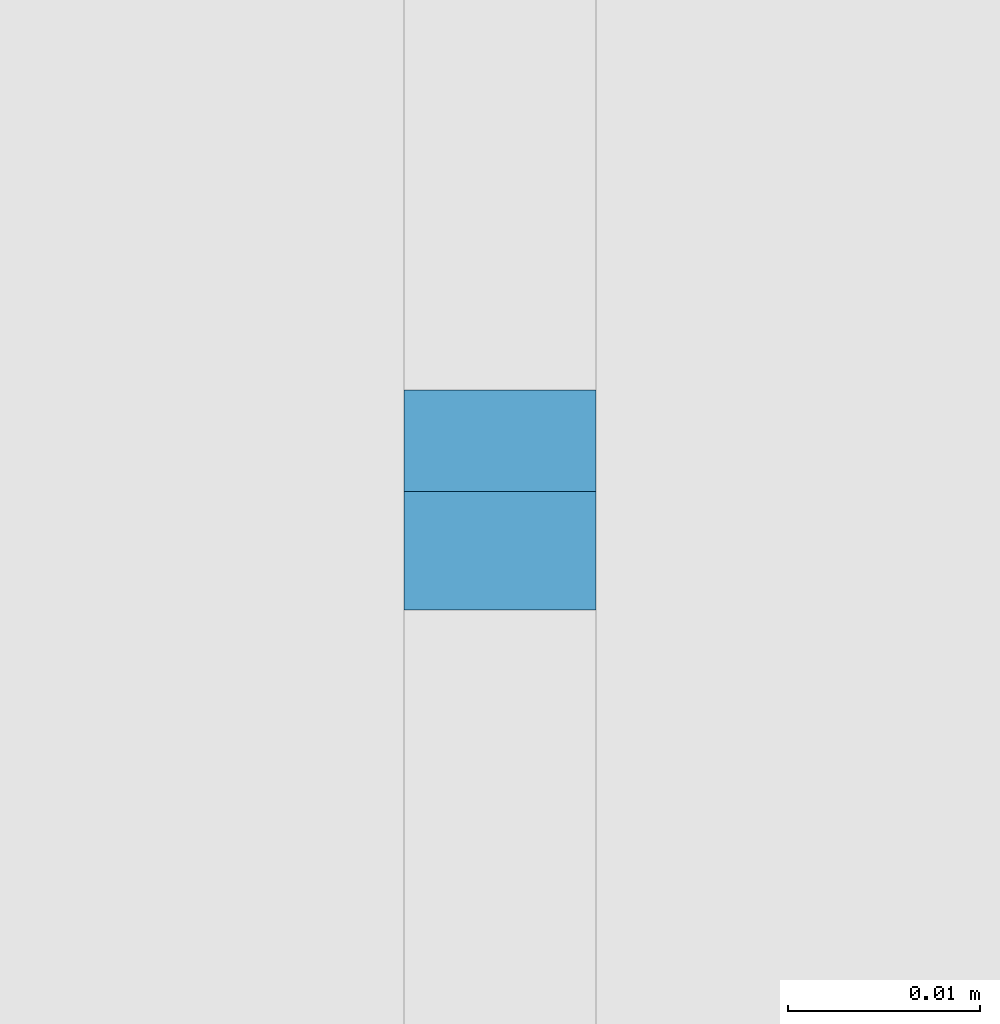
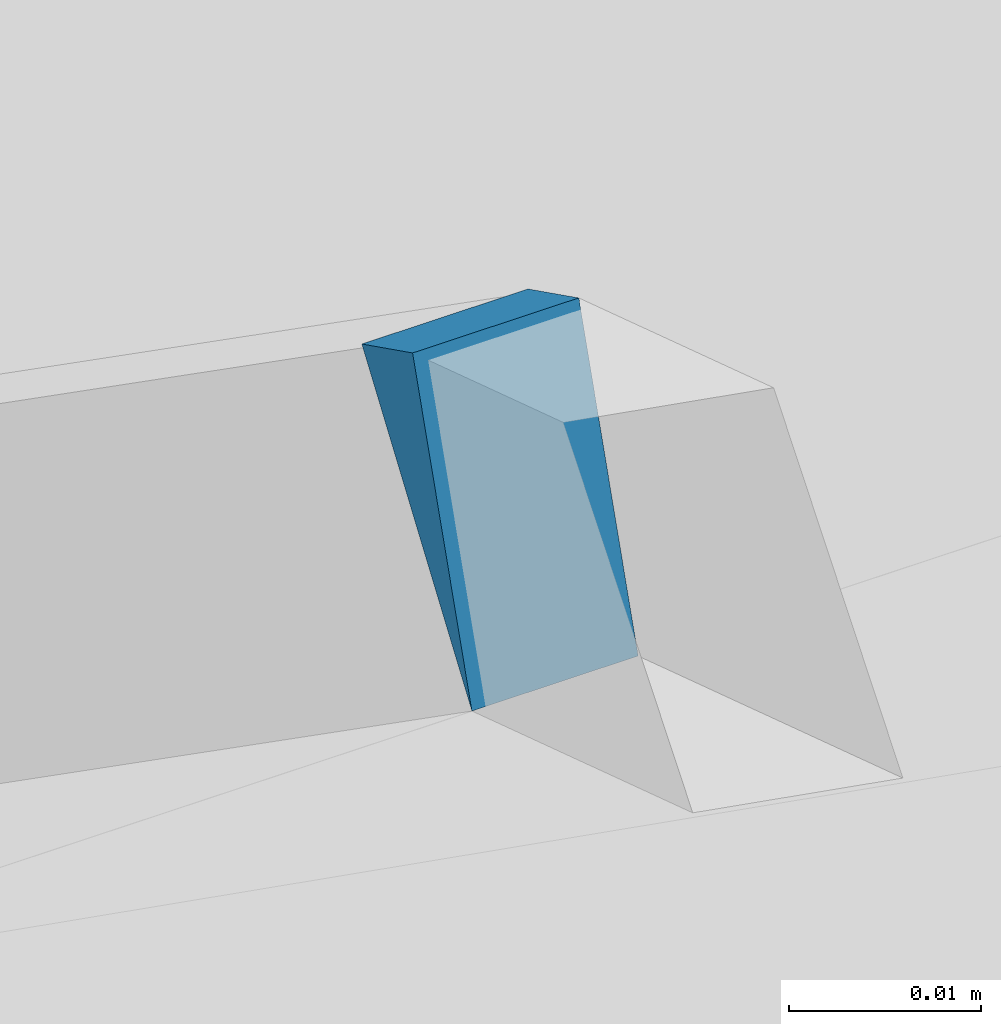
# One storey, part 382 of 583: 1 slab.
"""IFC2X3 building model written with IfcOpenShell, lengths in metres."""

from ifc_helpers import new_model, entity, si_unit, converted_unit, derived_unit, money_unit, direction, frame, origin_with_axes, place, context, subcontext, project, spatial, faceted_brep, material, type_object, element, save


model = new_model("IFC2X3")

# Units and contexts
model_context = context("Model", 3, precision=1e-05, world=origin_with_axes(), true_north=direction((0.0, 1.0)))
body_context = subcontext(model_context, "Body", "Model", "MODEL_VIEW", scale=1.0)
ifc_project = project(units=[si_unit("LENGTHUNIT", "METRE"), si_unit("AREAUNIT", "SQUARE_METRE"), si_unit("VOLUMEUNIT", "CUBIC_METRE"), si_unit("ABSORBEDDOSEUNIT", "GRAY"), si_unit("AMOUNTOFSUBSTANCEUNIT", "MOLE"), si_unit("DOSEEQUIVALENTUNIT", "SIEVERT"), si_unit("ELECTRICCAPACITANCEUNIT", "FARAD"), si_unit("ELECTRICCHARGEUNIT", "COULOMB"), si_unit("ELECTRICCONDUCTANCEUNIT", "SIEMENS"), si_unit("ELECTRICCURRENTUNIT", "AMPERE"), si_unit("ELECTRICRESISTANCEUNIT", "OHM"), si_unit("ELECTRICVOLTAGEUNIT", "VOLT"), si_unit("ENERGYUNIT", "JOULE"), si_unit("FORCEUNIT", "NEWTON"), si_unit("FREQUENCYUNIT", "HERTZ"), si_unit("ILLUMINANCEUNIT", "LUX"), si_unit("INDUCTANCEUNIT", "HENRY"), si_unit("LUMINOUSFLUXUNIT", "LUMEN"), si_unit("LUMINOUSINTENSITYUNIT", "CANDELA"), si_unit("MAGNETICFLUXDENSITYUNIT", "TESLA"), si_unit("MAGNETICFLUXUNIT", "WEBER"), si_unit("MASSUNIT", "GRAM"), converted_unit("PLANEANGLEUNIT", "degree", entity("IfcReal", 0.0174532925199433), si_unit("PLANEANGLEUNIT", "RADIAN"), dimensions=[0, 0, 0, 0, 0, 0, 0]), si_unit("POWERUNIT", "WATT"), si_unit("PRESSUREUNIT", "PASCAL"), si_unit("RADIOACTIVITYUNIT", "BECQUEREL"), si_unit("SOLIDANGLEUNIT", "STERADIAN"), si_unit("THERMODYNAMICTEMPERATUREUNIT", "KELVIN"), si_unit("TIMEUNIT", "SECOND"), derived_unit("ACCELERATIONUNIT", [(si_unit("LENGTHUNIT", "METRE"), 1), (si_unit("TIMEUNIT", "SECOND"), -2)]), derived_unit("ANGULARVELOCITYUNIT", [(converted_unit("PLANEANGLEUNIT", "degree", entity("IfcReal", 0.0174532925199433), si_unit("PLANEANGLEUNIT", "RADIAN"), dimensions=[0, 0, 0, 0, 0, 0, 0]), 1), (si_unit("TIMEUNIT", "SECOND"), -1)]), derived_unit("CURVATUREUNIT", [(converted_unit("PLANEANGLEUNIT", "degree", entity("IfcReal", 0.0174532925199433), si_unit("PLANEANGLEUNIT", "RADIAN"), dimensions=[0, 0, 0, 0, 0, 0, 0]), 1), (si_unit("LENGTHUNIT", "METRE"), -1)]), derived_unit("DYNAMICVISCOSITYUNIT", [(si_unit("PRESSUREUNIT", "PASCAL"), 1), (si_unit("TIMEUNIT", "SECOND"), 1)]), derived_unit("HEATFLUXDENSITYUNIT", [(si_unit("POWERUNIT", "WATT"), 1), (si_unit("LENGTHUNIT", "METRE"), -2)]), derived_unit("HEATINGVALUEUNIT", [(si_unit("ENERGYUNIT", "JOULE"), 1), (si_unit("MASSUNIT", "GRAM"), -1)]), derived_unit("INTEGERCOUNTRATEUNIT", [(si_unit("TIMEUNIT", "SECOND"), -1)]), derived_unit("IONCONCENTRATIONUNIT", [(si_unit("MASSUNIT", "GRAM"), 1), (si_unit("VOLUMEUNIT", "CUBIC_METRE"), -1)]), derived_unit("ISOTHERMALMOISTURECAPACITYUNIT", [(si_unit("VOLUMEUNIT", "CUBIC_METRE"), 1), (si_unit("MASSUNIT", "GRAM"), -1)]), derived_unit("KINEMATICVISCOSITYUNIT", [(si_unit("AREAUNIT", "SQUARE_METRE"), 1), (si_unit("TIMEUNIT", "SECOND"), -1)]), derived_unit("LINEARFORCEUNIT", [(si_unit("FORCEUNIT", "NEWTON"), 1), (si_unit("LENGTHUNIT", "METRE"), -1)]), derived_unit("LINEARMOMENTUNIT", [(si_unit("FORCEUNIT", "NEWTON"), 1), (si_unit("LENGTHUNIT", "METRE"), -1)]), derived_unit("LINEARSTIFFNESSUNIT", [(si_unit("FORCEUNIT", "NEWTON"), 1), (si_unit("LENGTHUNIT", "METRE"), -1)]), derived_unit("LINEARVELOCITYUNIT", [(si_unit("LENGTHUNIT", "METRE"), 1), (si_unit("TIMEUNIT", "SECOND"), -1)]), derived_unit("LUMINOUSINTENSITYDISTRIBUTIONUNIT", [(si_unit("LUMINOUSINTENSITYUNIT", "CANDELA"), 1), (si_unit("LUMINOUSFLUXUNIT", "LUMEN"), -1)]), derived_unit("MASSDENSITYUNIT", [(si_unit("MASSUNIT", "GRAM"), 1), (si_unit("VOLUMEUNIT", "CUBIC_METRE"), -1)]), derived_unit("MASSFLOWRATEUNIT", [(si_unit("MASSUNIT", "GRAM"), 1), (si_unit("TIMEUNIT", "SECOND"), -1)]), derived_unit("MASSPERLENGTHUNIT", [(si_unit("MASSUNIT", "GRAM"), 1), (si_unit("LENGTHUNIT", "METRE"), -1)]), derived_unit("MODULUSOFELASTICITYUNIT", [(si_unit("FORCEUNIT", "NEWTON"), 1), (si_unit("AREAUNIT", "SQUARE_METRE"), -1)]), derived_unit("MODULUSOFLINEARSUBGRADEREACTIONUNIT", [(si_unit("FORCEUNIT", "NEWTON"), 1), (si_unit("LENGTHUNIT", "METRE"), -2)]), derived_unit("MODULUSOFROTATIONALSUBGRADEREACTIONUNIT", [(si_unit("FORCEUNIT", "NEWTON"), 1), (si_unit("LENGTHUNIT", "METRE"), 1)]), derived_unit("MODULUSOFSUBGRADEREACTIONUNIT", [(si_unit("FORCEUNIT", "NEWTON"), 1), (si_unit("VOLUMEUNIT", "CUBIC_METRE"), -1)]), derived_unit("MOISTUREDIFFUSIVITYUNIT", [(si_unit("VOLUMEUNIT", "CUBIC_METRE"), 1), (si_unit("TIMEUNIT", "SECOND"), -1)]), derived_unit("MOLECULARWEIGHTUNIT", [(si_unit("MASSUNIT", "GRAM"), 1), (si_unit("AMOUNTOFSUBSTANCEUNIT", "MOLE"), -1)]), derived_unit("PLANARFORCEUNIT", [(si_unit("FORCEUNIT", "NEWTON"), 1), (si_unit("LENGTHUNIT", "METRE"), -2)]), derived_unit("ROTATIONALFREQUENCYUNIT", [(si_unit("TIMEUNIT", "SECOND"), -1)]), derived_unit("ROTATIONALMASSUNIT", [(si_unit("MASSUNIT", "GRAM"), 1), (si_unit("LENGTHUNIT", "METRE"), 2)]), derived_unit("ROTATIONALSTIFFNESSUNIT", [(si_unit("FORCEUNIT", "NEWTON"), 1), (si_unit("LENGTHUNIT", "METRE"), 1), (converted_unit("PLANEANGLEUNIT", "degree", entity("IfcReal", 0.0174532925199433), si_unit("PLANEANGLEUNIT", "RADIAN"), dimensions=[0, 0, 0, 0, 0, 0, 0]), -1)]), derived_unit("SECTIONAREAINTEGRALUNIT", [(si_unit("LENGTHUNIT", "METRE"), 5)]), derived_unit("SECTIONMODULUSUNIT", [(si_unit("LENGTHUNIT", "METRE"), 3)]), derived_unit("SHEARMODULUSUNIT", [(si_unit("FORCEUNIT", "NEWTON"), 1), (si_unit("AREAUNIT", "SQUARE_METRE"), -1)]), derived_unit("SOUNDPOWERUNIT", [(si_unit("ENERGYUNIT", "JOULE"), 1), (si_unit("TIMEUNIT", "SECOND"), -1)]), derived_unit("SPECIFICHEATCAPACITYUNIT", [(si_unit("FORCEUNIT", "NEWTON"), 1), (si_unit("MASSUNIT", "GRAM"), -1), (si_unit("THERMODYNAMICTEMPERATUREUNIT", "KELVIN"), -1)]), derived_unit("TEMPERATUREGRADIENTUNIT", [(si_unit("THERMODYNAMICTEMPERATUREUNIT", "KELVIN"), 1), (si_unit("LENGTHUNIT", "METRE"), -1)]), derived_unit("THERMALADMITTANCEUNIT", [(si_unit("POWERUNIT", "WATT"), 1), (si_unit("AREAUNIT", "SQUARE_METRE"), -1), (si_unit("THERMODYNAMICTEMPERATUREUNIT", "KELVIN"), -1)]), derived_unit("THERMALCONDUCTANCEUNIT", [(si_unit("POWERUNIT", "WATT"), 1), (si_unit("LENGTHUNIT", "METRE"), -1), (si_unit("THERMODYNAMICTEMPERATUREUNIT", "KELVIN"), -1)]), derived_unit("THERMALEXPANSIONCOEFFICIENTUNIT", [(si_unit("THERMODYNAMICTEMPERATUREUNIT", "KELVIN"), -1)]), derived_unit("THERMALRESISTANCEUNIT", [(si_unit("AREAUNIT", "SQUARE_METRE"), 1), (si_unit("POWERUNIT", "WATT"), -1)]), derived_unit("THERMALTRANSMITTANCEUNIT", [(si_unit("POWERUNIT", "WATT"), 1), (si_unit("AREAUNIT", "SQUARE_METRE"), -1), (si_unit("THERMODYNAMICTEMPERATUREUNIT", "KELVIN"), -1)]), derived_unit("TORQUEUNIT", [(si_unit("FORCEUNIT", "NEWTON"), 1), (si_unit("LENGTHUNIT", "METRE"), 1)]), derived_unit("VAPORPERMEABILITYUNIT", [(si_unit("MASSUNIT", "GRAM"), 1), (si_unit("TIMEUNIT", "SECOND"), -1)]), derived_unit("VOLUMETRICFLOWRATEUNIT", [(si_unit("VOLUMEUNIT", "CUBIC_METRE"), 1), (si_unit("TIMEUNIT", "SECOND"), -1)]), derived_unit("WARPINGCONSTANTUNIT", [(si_unit("LENGTHUNIT", "METRE"), 6)]), derived_unit("WARPINGMOMENTUNIT", [(si_unit("FORCEUNIT", "NEWTON"), 1), (si_unit("LENGTHUNIT", "METRE"), 2)]), money_unit("GBP")], contexts=[model_context])

# Site, building, storey
site_placement = place(None, origin_with_axes())
site = spatial("IfcSite", under=ifc_project, at=site_placement, Name="Site", CompositionType="ELEMENT")
building_placement = place(site_placement, origin_with_axes())
building = spatial("IfcBuilding", under=site, at=building_placement, Name="Building01", CompositionType="ELEMENT")
storey_placement = place(building_placement, frame((0.0, 0.0, 20.78), z_axis=(0.0, 0.0, 1.0), x_axis=(1.0, 0.0, 0.0)))
storey = spatial("IfcBuildingStorey", under=building, at=storey_placement, Name="RL", CompositionType="ELEMENT", Elevation=20.78)

# Slab
ifc_material = material(Name="A_BSUK_Roofs")
slab_type = type_object("IfcSlabType", Name="A-FloorsSlabs A_BSUK_Slabs", PredefinedType="FLOOR")
slab_placement = place(storey_placement, frame((12.360953, 18.791933, 4.882123), z_axis=(0.0, 1.0, 0.0), x_axis=(1.0, 0.0, 0.0)))
element("IfcSlab", 1, at=slab_placement, inside=storey, type_object=slab_type, material=ifc_material, Name="A-FloorsSlabs A_BSUK_Slabs", ObjectType="A-FloorsSlabs A_BSUK_Slabs", context=body_context, shape_type="Brep", body=[
    faceted_brep([(0.0, -0.002638, -0.005291), (0.01, -0.002638, -0.005291), (0.01, 0.0, 0.0), (0.0, 0.0, 0.0), (0.0, 0.016383, -0.011472), (0.01, 0.016383, -0.011472)], [[[0, 1, 2, 3]], [[4, 5, 1, 0]], [[3, 2, 5, 4]], [[1, 5, 2]], [[3, 4, 0]]]),
])

save(model, "model.ifc")
